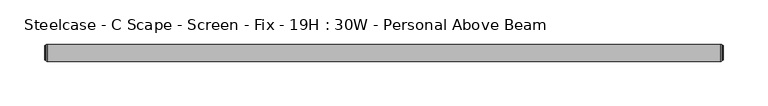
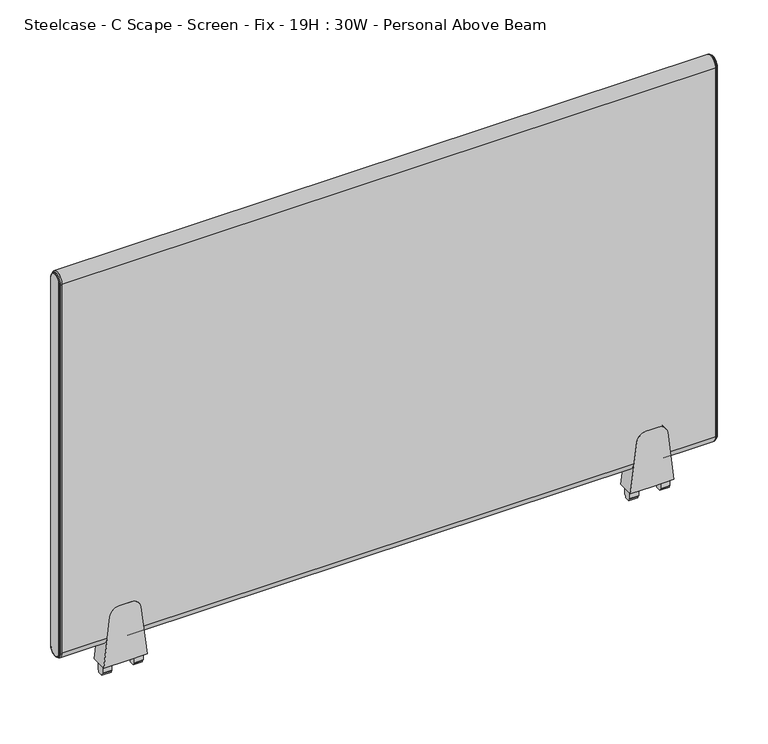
"""IFC4 building model written with IfcOpenShell, lengths in millimetres: furniture geometry, Steelcase - C Scape - Screen - Fix - 19H : 30W - Personal Above Beam."""

from ifc_helpers import new_model, si_unit, point, frame, frame_2d, origin, place, context, project, spatial, polyline, circle_curve, ellipse_curve, trimmed, segment, composite_curve, outline, extrude, source, transform, mapped, element, save
from ifc_brep_helpers import plane_surface, cylinder_surface, revolved_surface, advanced_brep


def steelcase_c_scape_screen_fix_19h_30w_personal_above_beam_53c1946a(model_context):
    return source(origin(), model_context, "Body", "SolidModel", [
        extrude(outline(composite_curve([segment(polyline([(609.511112, 101.4730434), (669.8362421, 94.0661495)]), True, "CONTINUOUS"), segment(trimmed(circle_curve(frame_2d((668.5143718, 83.300233)), 10.8467645), [point((669.8362421, 94.0661495))], [point((679.3611362, 83.300233))], False, "CARTESIAN"), True, "CONTINUOUS"), segment(polyline([(679.3611362, 83.300233), (679.3611362, 76.2001674), (679.3611362, 69.1001018)]), True, "CONTINUOUS"), segment(trimmed(circle_curve(frame_2d((668.5143718, 69.1001018)), 10.8467645), [point((679.3611362, 69.1001018))], [point((669.8362421, 58.3341853))], False, "CARTESIAN"), True, "CONTINUOUS"), segment(polyline([(669.8362421, 58.3341853), (609.511112, 50.9272915), (609.511112, 76.2001674), (609.511112, 101.4730434)]), True, "CONTINUOUS")], self_intersect=False)), frame((0.0, -9.525, 0.0), z_axis=(0.0, 1.0, 0.0), x_axis=(0.0, 0.0, 1.0)), (0.0, 0.0, 1.0), 19.05),
        extrude(outline(polyline([(4.5465975, 609.511112), (4.5465975, 599.6051033), (4.0139265, 598.7186748), (2.9972008, 598.7186748), (2.9972008, 596.4834188), (0.0, 596.392), (-2.9972008, 596.4834188), (-2.9972008, 598.7186748), (-4.0139265, 598.7186748), (-4.5465975, 599.6051033), (-4.5465975, 609.511112), (0.0, 609.511112), (4.5465975, 609.511112)])), frame((88.9267162, 0.0, 0.0), z_axis=(1.0, 0.0, 0.0), x_axis=(0.0, 1.0, 0.0)), (0.0, 0.0, 1.0), 10.7813187),
        extrude(outline(polyline([(4.5465975, 609.511112), (4.5465975, 599.6051033), (4.0139265, 598.7186748), (2.9972008, 598.7186748), (2.9972008, 596.4834188), (0.0, 596.392), (-2.9972008, 596.4834188), (-2.9972008, 598.7186748), (-4.0139265, 598.7186748), (-4.5465975, 599.6051033), (-4.5465975, 609.511112), (0.0, 609.511112), (4.5465975, 609.511112)])), frame((52.6923, 0.0, 0.0), z_axis=(1.0, 0.0, 0.0), x_axis=(0.0, 1.0, 0.0)), (0.0, 0.0, 1.0), 10.7813187),
        extrude(outline(composite_curve([segment(polyline([(609.511112, 710.3107132), (669.8362421, 702.9038193)]), True, "CONTINUOUS"), segment(trimmed(circle_curve(frame_2d((668.5143718, 692.1379028)), 10.8467645), [point((669.8362421, 702.9038193))], [point((679.3611362, 692.1379028))], False, "CARTESIAN"), True, "CONTINUOUS"), segment(polyline([(679.3611362, 692.1379028), (679.3611362, 685.0378372), (679.3611362, 677.9377716)]), True, "CONTINUOUS"), segment(trimmed(circle_curve(frame_2d((668.5143718, 677.9377716)), 10.8467645), [point((679.3611362, 677.9377716))], [point((669.8362421, 667.1718551))], False, "CARTESIAN"), True, "CONTINUOUS"), segment(polyline([(669.8362421, 667.1718551), (609.511112, 659.7649612), (609.511112, 685.0378372), (609.511112, 710.3107132)]), True, "CONTINUOUS")], self_intersect=False)), frame((0.0, -9.525, 0.0), z_axis=(0.0, 1.0, 0.0), x_axis=(0.0, 0.0, 1.0)), (0.0, 0.0, 1.0), 19.05),
        extrude(outline(polyline([(4.5465975, 609.511112), (4.5465975, 599.6051033), (4.0139265, 598.7186748), (2.9972008, 598.7186748), (2.9972008, 596.4834188), (0.0, 596.392), (-2.9972008, 596.4834188), (-2.9972008, 598.7186748), (-4.0139265, 598.7186748), (-4.5465975, 599.6051033), (-4.5465975, 609.511112), (0.0, 609.511112), (4.5465975, 609.511112)])), frame((697.764386, 0.0, 0.0), z_axis=(1.0, 0.0, 0.0), x_axis=(0.0, 1.0, 0.0)), (0.0, 0.0, 1.0), 10.7813187),
        extrude(outline(polyline([(4.5465975, 609.511112), (4.5465975, 599.6051033), (4.0139265, 598.7186748), (2.9972008, 598.7186748), (2.9972008, 596.4834188), (0.0, 596.392), (-2.9972008, 596.4834188), (-2.9972008, 598.7186748), (-4.0139265, 598.7186748), (-4.5465975, 599.6051033), (-4.5465975, 609.511112), (0.0, 609.511112), (4.5465975, 609.511112)])), frame((661.5299698, 0.0, 0.0), z_axis=(1.0, 0.0, 0.0), x_axis=(0.0, 1.0, 0.0)), (0.0, 0.0, 1.0), 10.7813187),
        advanced_brep(
        [(758.4486613, -9.525, 1095.375), (758.4486613, 9.525, 1095.375), (758.4486613, 9.525, 644.525), (758.4486613, -9.525, 644.525), (761.2426613, 7.4929583, 1095.375), (761.2426613, -7.4929583, 1095.375), (761.2426613, -7.4929583, 644.525), (761.2426613, 7.4929583, 644.525), (760.7346545, -8.0009651, 1095.375), (760.7346545, 8.0009651, 1095.375), (759.4646613, 8.0009651, 1095.375), (759.4646613, -8.0009651, 1095.375), (759.4646613, -8.8204932, 1095.375), (759.4646613, 8.8204932, 1095.375), (759.4646613, -8.0009651, 644.525), (760.7346545, -8.0009651, 644.525), (759.4646613, -8.8204932, 644.525), (759.4646613, 8.0009651, 644.525), (760.7346545, 8.0009651, 644.525), (759.4646613, 8.8204932, 644.525)],
        [
            (0, 1, circle_curve(frame((758.4486613, 0.0, 1095.375), z_axis=(-1.0, 0.0, 0.0), x_axis=(0.0, 1.0, 0.0)), 9.525)),
            (1, 2),
            (2, 3, circle_curve(frame((758.4486613, 0.0, 644.525), z_axis=(-1.0, 0.0, 0.0), x_axis=(0.0, -1.0, 0.0)), 9.525)),
            (3, 0),
            (4, 5, circle_curve(frame((761.2426613, 0.0, 1095.375), z_axis=(1.0, 0.0, 0.0), x_axis=(0.0, 1.0, 0.0)), 7.4929583)),
            (5, 6),
            (6, 7, circle_curve(frame((761.2426613, 0.0, 644.525), z_axis=(1.0, 0.0, 0.0), x_axis=(0.0, -1.0, 0.0)), 7.4929583)),
            (7, 4),
            (8, 9, circle_curve(frame((760.7346545, 0.0, 1095.375), z_axis=(-1.0, 0.0, 0.0), x_axis=(0.0, 1.0, 0.0)), 8.0009651)),
            (9, 10),
            (10, 11, circle_curve(frame((759.4646613, 0.0, 1095.375), z_axis=(1.0, 0.0, 0.0), x_axis=(0.0, 1.0, 0.0)), 8.0009651)),
            (11, 8),
            (8, 5, circle_curve(frame((760.7346545, -7.4929583, 1095.375), z_axis=(0.0, 0.0, 1.0), x_axis=(0.0, -1.0, 0.0)), 0.5080068)),
            (4, 9, circle_curve(frame((760.7346545, 7.4929583, 1095.375), z_axis=(0.0, 0.0, 1.0), x_axis=(0.0, 1.0, 0.0)), 0.5080068)),
            (12, 13, circle_curve(frame((759.4646613, 0.0, 1095.375), z_axis=(-1.0, 0.0, 0.0), x_axis=(0.0, 1.0, 0.0)), 8.8204932)),
            (13, 1, circle_curve(frame((758.3806211, 8.3420139, 1095.375), z_axis=(0.0, 0.0, 1.0), x_axis=(0.0, 1.0, 0.0)), 1.1849411)),
            (0, 12, circle_curve(frame((758.3806211, -8.3420139, 1095.375), z_axis=(0.0, 0.0, 1.0), x_axis=(0.0, -1.0, 0.0)), 1.1849411)),
            (11, 14),
            (14, 15),
            (15, 8),
            (15, 6, circle_curve(frame((760.7346545, -7.4929583, 644.525), z_axis=(0.0, 0.0, 1.0), x_axis=(0.0, -1.0, 0.0)), 0.5080068)),
            (3, 16, circle_curve(frame((758.3806211, -8.3420139, 644.525), z_axis=(0.0, 0.0, 1.0), x_axis=(0.0, -1.0, 0.0)), 1.1849411)),
            (16, 12),
            (14, 17, circle_curve(frame((759.4646613, 0.0, 644.525), z_axis=(1.0, 0.0, 0.0), x_axis=(0.0, -1.0, 0.0)), 8.0009651)),
            (17, 18),
            (18, 15, circle_curve(frame((760.7346545, 0.0, 644.525), z_axis=(-1.0, 0.0, 0.0), x_axis=(0.0, -1.0, 0.0)), 8.0009651)),
            (18, 7, circle_curve(frame((760.7346545, 7.4929583, 644.525), z_axis=(0.0, 0.0, -1.0), x_axis=(0.0, 1.0, 0.0)), 0.5080068)),
            (2, 19, circle_curve(frame((758.3806211, 8.3420139, 644.525), z_axis=(0.0, 0.0, -1.0), x_axis=(0.0, 1.0, 0.0)), 1.1849411)),
            (19, 16, circle_curve(frame((759.4646613, 0.0, 644.525), z_axis=(-1.0, 0.0, 0.0), x_axis=(0.0, -1.0, 0.0)), 8.8204932)),
            (9, 18),
            (17, 10),
            (13, 19),
        ],
        [
            plane_surface(frame((758.4486613, -6.3509705, 1095.375), z_axis=(-1.0, 0.0, 0.0), x_axis=(0.0, 0.0, 1.0))),
            plane_surface(frame((761.2426613, -6.3509705, 1095.375), z_axis=(1.0, 0.0, 0.0), x_axis=(0.0, 0.0, -1.0))),
            cylinder_surface(frame((758.4486613, 0.0, 1095.375), z_axis=(1.0, 0.0, 0.0), x_axis=(0.0, 1.0, 0.0)), 8.0009651),
            revolved_surface(trimmed(ellipse_curve(frame((760.7346545, 7.4929583, 1095.375), z_axis=(0.0, 0.0, -1.0), x_axis=(0.0, 1.0, 0.0)), 0.5080068, 0.5080068), [point((760.7346545, 8.0009651, 1095.375))], [point((761.2426613, 7.4929583, 1095.375))], True, "CARTESIAN"), (758.4486613, 0.0, 1095.375), (1.0, 0.0, 0.0)),
            revolved_surface(trimmed(ellipse_curve(frame((758.3806211, 8.3420139, 1095.375), z_axis=(0.0, 0.0, -1.0), x_axis=(0.0, 1.0, 0.0)), 1.1849411, 1.1849411), [point((758.4486613, 9.525, 1095.375))], [point((759.4646613, 8.8204932, 1095.375))], True, "CARTESIAN"), (758.4486613, 0.0, 1095.375), (1.0, 0.0, 0.0)),
            plane_surface(frame((759.4646613, -8.0009651, 1095.375), z_axis=(0.0, -1.0, 0.0), x_axis=(0.0, 0.0, -1.0))),
            cylinder_surface(frame((760.7346545, -7.4929583, 1095.375), z_axis=(0.0, 0.0, 1.0), x_axis=(0.0, -1.0, 0.0)), 0.5080068),
            cylinder_surface(frame((758.3806211, -8.3420139, 1095.375), z_axis=(0.0, 0.0, 1.0), x_axis=(0.0, -1.0, 0.0)), 1.1849411),
            cylinder_surface(frame((758.4486613, 0.0, 644.525), z_axis=(1.0, 0.0, 0.0), x_axis=(0.0, -1.0, 0.0)), 8.0009651),
            revolved_surface(trimmed(ellipse_curve(frame((760.7346545, -7.4929583, 644.525), z_axis=(0.0, 0.0, 1.0), x_axis=(0.0, -1.0, 0.0)), 0.5080068, 0.5080068), [point((760.7346545, -8.0009651, 644.525))], [point((761.2426613, -7.4929583, 644.525))], True, "CARTESIAN"), (758.4486613, 0.0, 644.525), (1.0, 0.0, 0.0)),
            revolved_surface(trimmed(ellipse_curve(frame((758.3806211, -8.3420139, 644.525), z_axis=(0.0, 0.0, 1.0), x_axis=(0.0, -1.0, 0.0)), 1.1849411, 1.1849411), [point((758.4486613, -9.525, 644.525))], [point((759.4646613, -8.8204932, 644.525))], True, "CARTESIAN"), (758.4486613, 0.0, 644.525), (1.0, 0.0, 0.0)),
            plane_surface(frame((759.4646613, 8.0009651, 644.525), z_axis=(0.0, 1.0, 0.0), x_axis=(0.0, 0.0, 1.0))),
            cylinder_surface(frame((760.7346545, 7.4929583, 644.525), z_axis=(0.0, 0.0, -1.0), x_axis=(0.0, 1.0, 0.0)), 0.5080068),
            cylinder_surface(frame((758.3806211, 8.3420139, 644.525), z_axis=(0.0, 0.0, -1.0), x_axis=(0.0, 1.0, 0.0)), 1.1849411),
            plane_surface(frame((759.4646613, 8.8204932, 644.525), z_axis=(1.0, 0.0, 0.0), x_axis=(0.0, 0.0, 1.0))),
        ],
        [
            (0, [[1, 2, 3, 4]]),
            (1, [[5, 6, 7, 8]]),
            (2, [[9, 10, 11, 12]]),
            (3, [[-9, 13, -5, 14]]),
            (4, [[15, 16, -1, 17]]),
            (5, [[-12, 18, 19, 20]]),
            (6, [[-13, -20, 21, -6]]),
            (7, [[-17, -4, 22, 23]]),
            (8, [[-19, 24, 25, 26]]),
            (9, [[-21, -26, 27, -7]]),
            (10, [[-22, -3, 28, 29]]),
            (11, [[-10, 30, -25, 31]]),
            (12, [[-14, -8, -27, -30]]),
            (13, [[-16, 32, -28, -2]]),
            (14, [[-15, -23, -29, -32], [-11, -31, -24, -18]]),
        ],
    ),
        advanced_brep(
        [(2.7940155, 9.525, 1095.375), (2.7940155, -9.525, 1095.375), (2.7940155, -9.525, 644.525), (2.7940155, 9.525, 644.525), (0.0, -7.4929583, 1095.375), (0.0, 7.4929583, 1095.375), (0.0, 7.4929583, 644.525), (0.0, -7.4929583, 644.525), (1.778, 8.8204932, 1095.375), (1.778, -8.8204932, 1095.375), (0.5080068, -8.0009651, 1095.375), (0.5080068, 8.0009651, 1095.375), (1.778, -8.0009651, 1095.375), (1.778, 8.0009651, 1095.375), (1.778, -8.8204932, 644.525), (0.5080068, -8.0009651, 644.525), (1.778, -8.0009651, 644.525), (1.778, 8.8204932, 644.525), (0.5080068, 8.0009651, 644.525), (1.778, 8.0009651, 644.525)],
        [
            (0, 1, circle_curve(frame((2.7940155, 0.0, 1095.375), z_axis=(1.0, 0.0, 0.0), x_axis=(0.0, 1.0, 0.0)), 9.525)),
            (1, 2),
            (2, 3, circle_curve(frame((2.7940155, 0.0, 644.525), z_axis=(1.0, 0.0, 0.0), x_axis=(0.0, -1.0, 0.0)), 9.525)),
            (3, 0),
            (4, 5, circle_curve(frame((0.0, 0.0, 1095.375), z_axis=(-1.0, 0.0, 0.0), x_axis=(0.0, 1.0, 0.0)), 7.4929583)),
            (5, 6),
            (6, 7, circle_curve(frame((0.0, 0.0, 644.525), z_axis=(-1.0, 0.0, 0.0), x_axis=(0.0, -1.0, 0.0)), 7.4929583)),
            (7, 4),
            (0, 8, circle_curve(frame((2.8620402, 8.3420139, 1095.375), z_axis=(0.0, 0.0, 1.0), x_axis=(0.0, -1.0, 0.0)), 1.1849411)),
            (8, 9, circle_curve(frame((1.778, 0.0, 1095.375), z_axis=(1.0, 0.0, 0.0), x_axis=(0.0, 1.0, 0.0)), 8.8204932)),
            (9, 1, circle_curve(frame((2.8620402, -8.3420139, 1095.375), z_axis=(0.0, 0.0, 1.0), x_axis=(0.0, 1.0, 0.0)), 1.1849411)),
            (10, 11, circle_curve(frame((0.5080068, 0.0, 1095.375), z_axis=(-1.0, 0.0, 0.0), x_axis=(0.0, 1.0, 0.0)), 8.0009651)),
            (11, 5, circle_curve(frame((0.5080068, 7.4929583, 1095.375), z_axis=(0.0, 0.0, 1.0), x_axis=(0.0, -1.0, 0.0)), 0.5080068)),
            (4, 10, circle_curve(frame((0.5080068, -7.4929583, 1095.375), z_axis=(0.0, 0.0, 1.0), x_axis=(0.0, 1.0, 0.0)), 0.5080068)),
            (10, 12),
            (12, 13, circle_curve(frame((1.778, 0.0, 1095.375), z_axis=(-1.0, 0.0, 0.0), x_axis=(0.0, 1.0, 0.0)), 8.0009651)),
            (13, 11),
            (9, 14),
            (14, 2, circle_curve(frame((2.8620402, -8.3420139, 644.525), z_axis=(0.0, 0.0, 1.0), x_axis=(0.0, 1.0, 0.0)), 1.1849411)),
            (7, 15, circle_curve(frame((0.5080068, -7.4929583, 644.525), z_axis=(0.0, 0.0, 1.0), x_axis=(0.0, 1.0, 0.0)), 0.5080068)),
            (15, 10),
            (15, 16),
            (16, 12),
            (14, 17, circle_curve(frame((1.778, 0.0, 644.525), z_axis=(1.0, 0.0, 0.0), x_axis=(0.0, -1.0, 0.0)), 8.8204932)),
            (17, 3, circle_curve(frame((2.8620402, 8.3420139, 644.525), z_axis=(0.0, 0.0, -1.0), x_axis=(0.0, -1.0, 0.0)), 1.1849411)),
            (6, 18, circle_curve(frame((0.5080068, 7.4929583, 644.525), z_axis=(0.0, 0.0, -1.0), x_axis=(0.0, -1.0, 0.0)), 0.5080068)),
            (18, 15, circle_curve(frame((0.5080068, 0.0, 644.525), z_axis=(-1.0, 0.0, 0.0), x_axis=(0.0, -1.0, 0.0)), 8.0009651)),
            (18, 19),
            (19, 16, circle_curve(frame((1.778, 0.0, 644.525), z_axis=(-1.0, 0.0, 0.0), x_axis=(0.0, -1.0, 0.0)), 8.0009651)),
            (8, 17),
            (19, 13),
            (11, 18),
        ],
        [
            plane_surface(frame((2.7940155, -6.3509705, 1095.375), z_axis=(1.0, 0.0, 0.0), x_axis=(0.0, 0.0, -1.0))),
            plane_surface(frame((0.0, -6.3509705, 1095.375), z_axis=(-1.0, 0.0, 0.0), x_axis=(0.0, 0.0, 1.0))),
            revolved_surface(trimmed(ellipse_curve(frame((2.8620402, 8.3420139, 1095.375), z_axis=(0.0, 0.0, -1.0), x_axis=(0.0, -1.0, 0.0)), 1.1849411, 1.1849411), [point((1.778, 8.8204932, 1095.375))], [point((2.794, 9.525, 1095.375))], True, "CARTESIAN"), (2.794, 0.0, 1095.375), (1.0, 0.0, 0.0)),
            revolved_surface(trimmed(ellipse_curve(frame((0.5080068, 7.4929583, 1095.375), z_axis=(0.0, 0.0, -1.0), x_axis=(0.0, -1.0, 0.0)), 0.5080068, 0.5080068), [point((0.0, 7.4929583, 1095.375))], [point((0.5080068, 8.0009651, 1095.375))], True, "CARTESIAN"), (2.794, 0.0, 1095.375), (1.0, 0.0, 0.0)),
            cylinder_surface(frame((2.794, 0.0, 1095.375), z_axis=(1.0, 0.0, 0.0), x_axis=(0.0, 1.0, 0.0)), 8.0009651),
            cylinder_surface(frame((2.8620402, -8.3420139, 1095.375), z_axis=(0.0, 0.0, 1.0), x_axis=(0.0, 1.0, 0.0)), 1.1849411),
            cylinder_surface(frame((0.5080068, -7.4929583, 1095.375), z_axis=(0.0, 0.0, 1.0), x_axis=(0.0, 1.0, 0.0)), 0.5080068),
            plane_surface(frame((0.5080068, -8.0009651, 1095.375), z_axis=(0.0, -1.0, 0.0), x_axis=(0.0, 0.0, -1.0))),
            revolved_surface(trimmed(ellipse_curve(frame((2.8620402, -8.3420139, 644.525), z_axis=(0.0, 0.0, 1.0), x_axis=(0.0, 1.0, 0.0)), 1.1849411, 1.1849411), [point((1.778, -8.8204932, 644.525))], [point((2.794, -9.525, 644.525))], True, "CARTESIAN"), (2.794, 0.0, 644.525), (1.0, 0.0, 0.0)),
            revolved_surface(trimmed(ellipse_curve(frame((0.5080068, -7.4929583, 644.525), z_axis=(0.0, 0.0, 1.0), x_axis=(0.0, 1.0, 0.0)), 0.5080068, 0.5080068), [point((0.0, -7.4929583, 644.525))], [point((0.5080068, -8.0009651, 644.525))], True, "CARTESIAN"), (2.794, 0.0, 644.525), (1.0, 0.0, 0.0)),
            cylinder_surface(frame((2.794, 0.0, 644.525), z_axis=(1.0, 0.0, 0.0), x_axis=(0.0, -1.0, 0.0)), 8.0009651),
            plane_surface(frame((1.778, 8.0009651, 644.525), z_axis=(-1.0, 0.0, 0.0), x_axis=(0.0, 0.0, 1.0))),
            cylinder_surface(frame((2.8620402, 8.3420139, 644.525), z_axis=(0.0, 0.0, -1.0), x_axis=(0.0, -1.0, 0.0)), 1.1849411),
            cylinder_surface(frame((0.5080068, 7.4929583, 644.525), z_axis=(0.0, 0.0, -1.0), x_axis=(0.0, -1.0, 0.0)), 0.5080068),
            plane_surface(frame((0.5080068, 8.0009651, 644.525), z_axis=(0.0, 1.0, 0.0), x_axis=(0.0, 0.0, 1.0))),
        ],
        [
            (0, [[1, 2, 3, 4]]),
            (1, [[5, 6, 7, 8]]),
            (2, [[-1, 9, 10, 11]]),
            (3, [[12, 13, -5, 14]]),
            (4, [[-12, 15, 16, 17]]),
            (5, [[-11, 18, 19, -2]]),
            (6, [[-14, -8, 20, 21]]),
            (7, [[-15, -21, 22, 23]]),
            (8, [[-19, 24, 25, -3]]),
            (9, [[-20, -7, 26, 27]]),
            (10, [[-22, -27, 28, 29]]),
            (11, [[-10, 30, -24, -18], [-16, -23, -29, 31]]),
            (12, [[-9, -4, -25, -30]]),
            (13, [[-13, 32, -26, -6]]),
            (14, [[-17, -31, -28, -32]]),
        ],
    ),
        extrude(outline(composite_curve([segment(trimmed(circle_curve(frame_2d((0.0, 1095.375)), 9.525), [point((-9.525, 1095.375))], [point((9.525, 1095.375))], False, "CARTESIAN"), True, "CONTINUOUS"), segment(polyline([(9.525, 1095.375), (9.525, 644.525)]), True, "CONTINUOUS"), segment(trimmed(circle_curve(frame_2d((0.0, 644.525)), 9.525), [point((9.525, 644.525))], [point((-9.525, 644.525))], False, "CARTESIAN"), True, "CONTINUOUS"), segment(polyline([(-9.525, 644.525), (-9.525, 1095.375)]), True, "CONTINUOUS")], self_intersect=False)), frame((2.794, 0.0, 0.0), z_axis=(1.0, 0.0, 0.0), x_axis=(0.0, 1.0, 0.0)), (0.0, 0.0, 1.0), 755.6546613),
    ])


if __name__ == "__main__":
    model = new_model("IFC4")
    model_context = context("Model", 3, world=origin())
    ifc_project = project(units=[si_unit("LENGTHUNIT", "METRE", prefix="MILLI")], contexts=[model_context])
    site = spatial("IfcSite", under=ifc_project)
    building = spatial("IfcBuilding", under=site)
    placement = place(None, origin())
    steelcase_c_scape_screen_fix_19h_30w_personal_above_beam_shape = steelcase_c_scape_screen_fix_19h_30w_personal_above_beam_53c1946a(model_context)
    element("IfcFurniture", 1, ObjectType="Steelcase - C Scape - Screen - Fix - 19H : 30W - Personal Above Beam", at=placement, inside=building, context=model_context, shape_type="MappedRepresentation", body=[
        mapped(steelcase_c_scape_screen_fix_19h_30w_personal_above_beam_shape, transform((0.0, 0.0, 0.0), x_axis=(1.0, 0.0, 0.0), y_axis=(0.0, 1.0, 0.0), z_axis=(0.0, 0.0, 1.0))),
    ])
    save(model, "model.ifc")
